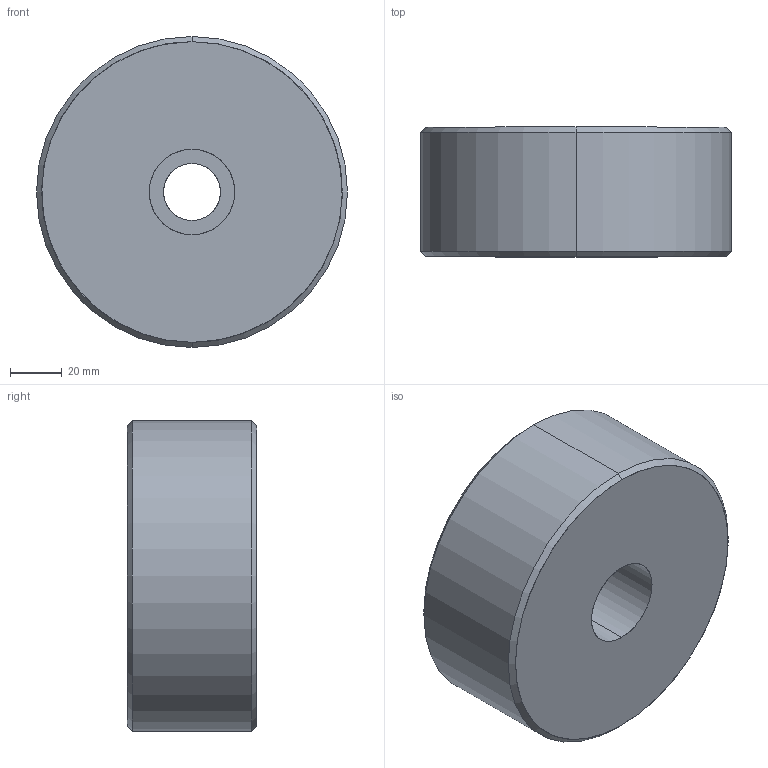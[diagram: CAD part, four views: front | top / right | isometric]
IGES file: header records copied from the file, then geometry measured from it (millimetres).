
Start section: START RECORD GO HERE.
Global section: file name: 758+120+50+15.igs; native system: DASSAULT SYSTEMES CATIA V5 R20 - www.3ds.com; preprocessor: CATIA Version 5 Release 20 ; author: Utente; organization: NB04-ASUS; date: 20201028.203153; units: millimetre
Bounding box: 120 x 50 x 120 mm (x, y, z)
Surface area: 44480.3 mm2 (no closed solid volume)
Topology: 0 solids, 0 shells, 13 faces, 52 edges, 52 vertices
Faces by surface type: revolution 10, plane 3
